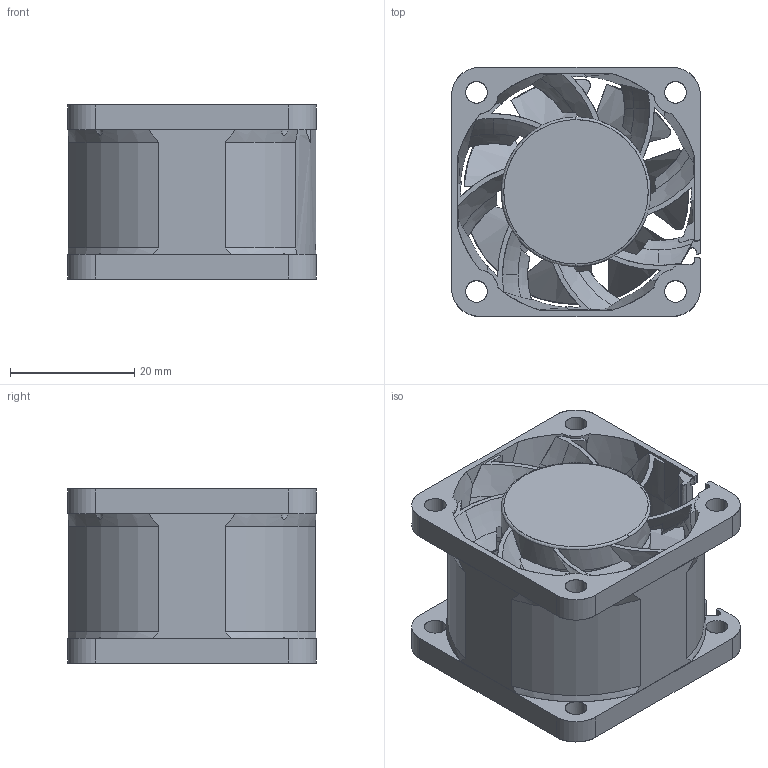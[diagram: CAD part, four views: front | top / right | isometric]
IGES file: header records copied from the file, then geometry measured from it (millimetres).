
Start section: SolidWorks IGES file using analytic representation for surfaces
Global section: file name: C:\Users\koike-masahiro\Desktop\3D 各種モデル\9L_40x28_NR\4028L_RIBLESS.IGS; native system: SolidWorks 2017; preprocessor: SolidWorks 2017; author: Koike-Masahiro; date: 170323.152100; units: millimetre
Bounding box: 40 x 40 x 28 mm (x, y, z)
Surface area: 14444.8 mm2 (no closed solid volume)
Topology: 0 solids, 0 shells, 310 faces, 3471 edges, 3471 vertices
Faces by surface type: bspline 173, revolution 137
